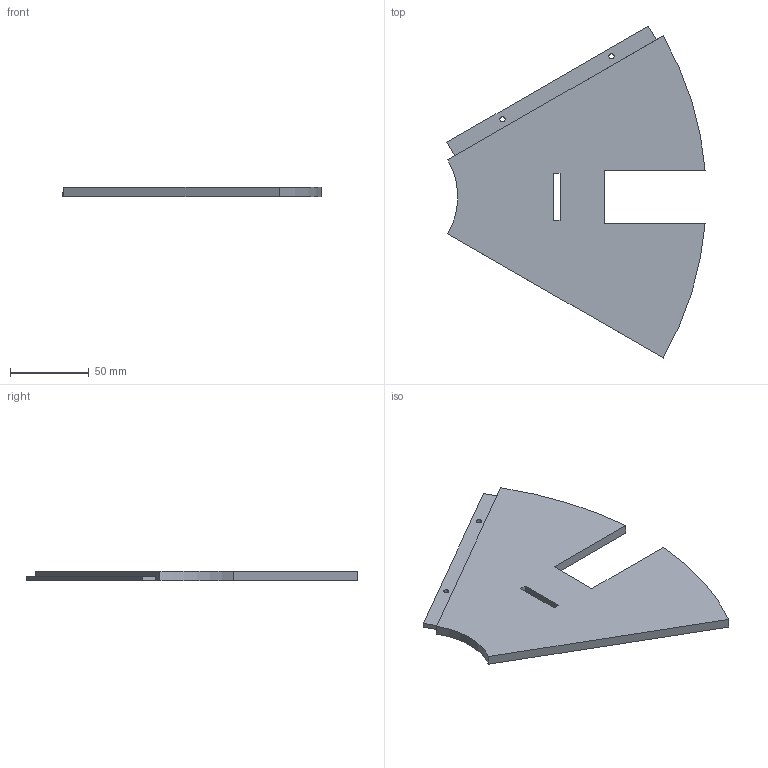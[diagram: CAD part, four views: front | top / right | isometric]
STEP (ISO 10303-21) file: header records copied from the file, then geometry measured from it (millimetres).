
FILE_DESCRIPTION(('Open CASCADE Model'),'2;1');
FILE_NAME('Open CASCADE Shape Model','2026-10-02T23:27:51',('Author'),( 'Open CASCADE'),'Open CASCADE STEP processor 7.9','Open CASCADE 7.9' ,'Unknown');
FILE_SCHEMA(('AUTOMOTIVE_DESIGN { 1 0 10303 214 1 1 1 1 }'));
Length unit declared in the file: millimetre
Products named in the file (1): Open CASCADE STEP translator 7.9 19
Bounding box: 164.26 x 211.16 x 6 mm (x, y, z)
Volume: 115542.3 mm3; surface area: 44757.9 mm2
Topology: 1 solids, 1 shells, 20 faces, 54 edges, 36 vertices
Faces by surface type: plane 15, cylinder 5
Full cylindrical faces by diameter (mm): 3.3 x2
Entity records: 1333 total; most frequent: CARTESIAN_POINT 301, DIRECTION 167, ORIENTED_EDGE 108, PCURVE 108, DEFINITIONAL_REPRESENTATION 108, LINE 102, VECTOR 102, EDGE_CURVE 54
